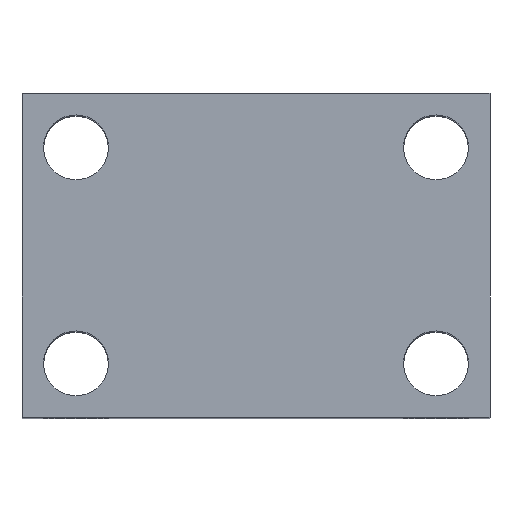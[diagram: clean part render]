
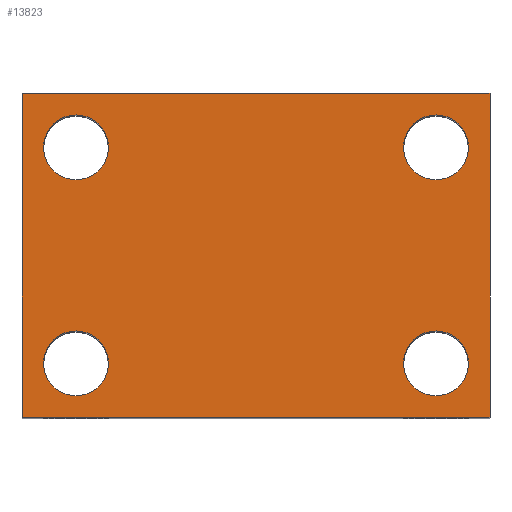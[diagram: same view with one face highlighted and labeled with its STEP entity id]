
A CAD part, top view. The second image highlights one B-rep face of the part: STEP entity #13823.
In plain terms, the highlighted planar face has unit normal (0, 0, 1).
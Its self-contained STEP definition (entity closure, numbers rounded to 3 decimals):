
#20 = DIRECTION ( 'NONE',  ( -1., 0., 0. ) ) ;
#30 = DIRECTION ( 'NONE',  ( -1., 0., 0. ) ) ;
#42 = CARTESIAN_POINT ( 'NONE',  ( 32.5, 45., 40. ) ) ;
#133 = VECTOR ( 'NONE', #2317, 1000. ) ;
#137 = FACE_BOUND ( 'NONE', #700, .T. ) ;
#364 = DIRECTION ( 'NONE',  ( -1., 0., 0. ) ) ;
#393 = DIRECTION ( 'NONE',  ( -1., 0., 0. ) ) ;
#608 = ORIENTED_EDGE ( 'NONE', *, *, #11933, .T. ) ;
#700 = EDGE_LOOP ( 'NONE', ( #5647, #608 ) ) ;
#831 = PLANE ( 'NONE',  #15808 ) ;
#946 = CARTESIAN_POINT ( 'NONE',  ( 20.5, 7.5, 40. ) ) ;
#965 = ORIENTED_EDGE ( 'NONE', *, *, #3505, .F. ) ;
#1016 = DIRECTION ( 'NONE',  ( 0., 0., -1. ) ) ;
#1478 = EDGE_LOOP ( 'NONE', ( #5399, #16691 ) ) ;
#1530 = EDGE_CURVE ( 'NONE', #13442, #2707, #8461, .T. ) ;
#1584 = DIRECTION ( 'NONE',  ( 0., 0., -1. ) ) ;
#1596 = ORIENTED_EDGE ( 'NONE', *, *, #16963, .T. ) ;
#2002 = VECTOR ( 'NONE', #12940, 1000. ) ;
#2294 = EDGE_CURVE ( 'NONE', #3599, #11888, #5779, .T. ) ;
#2317 = DIRECTION ( 'NONE',  ( 1., 0., 0. ) ) ;
#2343 = CARTESIAN_POINT ( 'NONE',  ( -20.5, 37.5, 40. ) ) ;
#2383 = EDGE_CURVE ( 'NONE', #16859, #15830, #8452, .T. ) ;
#2484 = EDGE_CURVE ( 'NONE', #5491, #5930, #15272, .T. ) ;
#2662 = CIRCLE ( 'NONE', #5164, 4.5 ) ;
#2707 = VERTEX_POINT ( 'NONE', #9063 ) ;
#2752 = ORIENTED_EDGE ( 'NONE', *, *, #16583, .T. ) ;
#2768 = EDGE_CURVE ( 'NONE', #7362, #10344, #11824, .T. ) ;
#2983 = CIRCLE ( 'NONE', #7966, 4.5 ) ;
#3180 = AXIS2_PLACEMENT_3D ( 'NONE', #16103, #7954, #20 ) ;
#3220 = EDGE_LOOP ( 'NONE', ( #2752, #8485 ) ) ;
#3444 = CARTESIAN_POINT ( 'NONE',  ( -32.5, 0., 40. ) ) ;
#3478 = DIRECTION ( 'NONE',  ( 0., 0., -1. ) ) ;
#3505 = EDGE_CURVE ( 'NONE', #4287, #13442, #3640, .T. ) ;
#3543 = CARTESIAN_POINT ( 'NONE',  ( -32.5, 45., 40. ) ) ;
#3599 = VERTEX_POINT ( 'NONE', #7780 ) ;
#3640 = LINE ( 'NONE', #4963, #133 ) ;
#3641 = FACE_BOUND ( 'NONE', #13563, .T. ) ;
#3951 = CARTESIAN_POINT ( 'NONE',  ( 25., 7.5, 40. ) ) ;
#4287 = VERTEX_POINT ( 'NONE', #10044 ) ;
#4551 = CARTESIAN_POINT ( 'NONE',  ( -29.5, 7.5, 40. ) ) ;
#4963 = CARTESIAN_POINT ( 'NONE',  ( -32.5, 45., 40. ) ) ;
#5164 = AXIS2_PLACEMENT_3D ( 'NONE', #16477, #8294, #364 ) ;
#5264 = CARTESIAN_POINT ( 'NONE',  ( 29.5, 37.5, 40. ) ) ;
#5324 = DIRECTION ( 'NONE',  ( -1., 0., 0. ) ) ;
#5399 = ORIENTED_EDGE ( 'NONE', *, *, #2294, .T. ) ;
#5491 = VERTEX_POINT ( 'NONE', #4551 ) ;
#5647 = ORIENTED_EDGE ( 'NONE', *, *, #2383, .T. ) ;
#5737 = DIRECTION ( 'NONE',  ( 1., 0., 0. ) ) ;
#5779 = CIRCLE ( 'NONE', #13237, 4.5 ) ;
#5930 = VERTEX_POINT ( 'NONE', #7587 ) ;
#6569 = DIRECTION ( 'NONE',  ( 0., 0., -1. ) ) ;
#6764 = FACE_OUTER_BOUND ( 'NONE', #11309, .T. ) ;
#7362 = VERTEX_POINT ( 'NONE', #2343 ) ;
#7574 = CIRCLE ( 'NONE', #3180, 4.5 ) ;
#7587 = CARTESIAN_POINT ( 'NONE',  ( -20.5, 7.5, 40. ) ) ;
#7780 = CARTESIAN_POINT ( 'NONE',  ( 20.5, 37.5, 40. ) ) ;
#7954 = DIRECTION ( 'NONE',  ( 0., 0., -1. ) ) ;
#7964 = DIRECTION ( 'NONE',  ( 0., 0., -1. ) ) ;
#7966 = AXIS2_PLACEMENT_3D ( 'NONE', #16502, #8324, #393 ) ;
#8294 = DIRECTION ( 'NONE',  ( 0., 0., -1. ) ) ;
#8324 = DIRECTION ( 'NONE',  ( 0., 0., -1. ) ) ;
#8360 = AXIS2_PLACEMENT_3D ( 'NONE', #14672, #6569, #16048 ) ;
#8452 = CIRCLE ( 'NONE', #15093, 4.5 ) ;
#8461 = LINE ( 'NONE', #42, #9296 ) ;
#8485 = ORIENTED_EDGE ( 'NONE', *, *, #2768, .T. ) ;
#8968 = CARTESIAN_POINT ( 'NONE',  ( 25., 37.5, 40. ) ) ;
#9063 = CARTESIAN_POINT ( 'NONE',  ( 32.5, 0., 40. ) ) ;
#9104 = VECTOR ( 'NONE', #5737, 1000. ) ;
#9296 = VECTOR ( 'NONE', #9316, 1000. ) ;
#9316 = DIRECTION ( 'NONE',  ( 0., -1., 0. ) ) ;
#9546 = CARTESIAN_POINT ( 'NONE',  ( -25., 7.5, 40. ) ) ;
#9922 = EDGE_CURVE ( 'NONE', #11888, #3599, #2662, .T. ) ;
#10044 = CARTESIAN_POINT ( 'NONE',  ( -32.5, 45., 40. ) ) ;
#10141 = CARTESIAN_POINT ( 'NONE',  ( -32.5, 45., 40. ) ) ;
#10332 = DIRECTION ( 'NONE',  ( -1., 0., 0. ) ) ;
#10333 = FACE_BOUND ( 'NONE', #1478, .T. ) ;
#10344 = VERTEX_POINT ( 'NONE', #12294 ) ;
#10680 = CARTESIAN_POINT ( 'NONE',  ( 32.5, 45., 40. ) ) ;
#10915 = DIRECTION ( 'NONE',  ( -1., 0., 0. ) ) ;
#11085 = CARTESIAN_POINT ( 'NONE',  ( 29.5, 7.5, 40. ) ) ;
#11309 = EDGE_LOOP ( 'NONE', ( #11498, #16870, #965, #16248 ) ) ;
#11488 = EDGE_CURVE ( 'NONE', #14609, #2707, #16822, .T. ) ;
#11498 = ORIENTED_EDGE ( 'NONE', *, *, #11488, .T. ) ;
#11824 = CIRCLE ( 'NONE', #8360, 4.5 ) ;
#11888 = VERTEX_POINT ( 'NONE', #5264 ) ;
#11933 = EDGE_CURVE ( 'NONE', #15830, #16859, #12503, .T. ) ;
#12294 = CARTESIAN_POINT ( 'NONE',  ( -29.5, 37.5, 40. ) ) ;
#12503 = CIRCLE ( 'NONE', #17166, 4.5 ) ;
#12872 = DIRECTION ( 'NONE',  ( -1., 0., 0. ) ) ;
#12940 = DIRECTION ( 'NONE',  ( 0., -1., 0. ) ) ;
#13091 = LINE ( 'NONE', #3543, #2002 ) ;
#13237 = AXIS2_PLACEMENT_3D ( 'NONE', #8968, #1016, #10332 ) ;
#13318 = ORIENTED_EDGE ( 'NONE', *, *, #2484, .T. ) ;
#13357 = DIRECTION ( 'NONE',  ( 0., 0., -1. ) ) ;
#13442 = VERTEX_POINT ( 'NONE', #10680 ) ;
#13563 = EDGE_LOOP ( 'NONE', ( #13318, #1596 ) ) ;
#13823 = ADVANCED_FACE ( 'NONE', ( #13965, #3641, #137, #10333, #6764 ), #831, .F. ) ;
#13965 = FACE_BOUND ( 'NONE', #3220, .T. ) ;
#14609 = VERTEX_POINT ( 'NONE', #3444 ) ;
#14672 = CARTESIAN_POINT ( 'NONE',  ( -25., 37.5, 40. ) ) ;
#15093 = AXIS2_PLACEMENT_3D ( 'NONE', #3951, #13357, #5324 ) ;
#15272 = CIRCLE ( 'NONE', #16931, 4.5 ) ;
#15522 = EDGE_CURVE ( 'NONE', #4287, #14609, #13091, .T. ) ;
#15808 = AXIS2_PLACEMENT_3D ( 'NONE', #10141, #3478, #12872 ) ;
#15830 = VERTEX_POINT ( 'NONE', #11085 ) ;
#16048 = DIRECTION ( 'NONE',  ( -1., 0., 0. ) ) ;
#16103 = CARTESIAN_POINT ( 'NONE',  ( -25., 7.5, 40. ) ) ;
#16117 = CARTESIAN_POINT ( 'NONE',  ( 25., 7.5, 40. ) ) ;
#16248 = ORIENTED_EDGE ( 'NONE', *, *, #15522, .T. ) ;
#16477 = CARTESIAN_POINT ( 'NONE',  ( 25., 37.5, 40. ) ) ;
#16502 = CARTESIAN_POINT ( 'NONE',  ( -25., 37.5, 40. ) ) ;
#16509 = CARTESIAN_POINT ( 'NONE',  ( -32.5, 0., 40. ) ) ;
#16583 = EDGE_CURVE ( 'NONE', #10344, #7362, #2983, .T. ) ;
#16691 = ORIENTED_EDGE ( 'NONE', *, *, #9922, .T. ) ;
#16822 = LINE ( 'NONE', #16509, #9104 ) ;
#16859 = VERTEX_POINT ( 'NONE', #946 ) ;
#16870 = ORIENTED_EDGE ( 'NONE', *, *, #1530, .F. ) ;
#16931 = AXIS2_PLACEMENT_3D ( 'NONE', #9546, #1584, #10915 ) ;
#16963 = EDGE_CURVE ( 'NONE', #5930, #5491, #7574, .T. ) ;
#17166 = AXIS2_PLACEMENT_3D ( 'NONE', #16117, #7964, #30 ) ;
